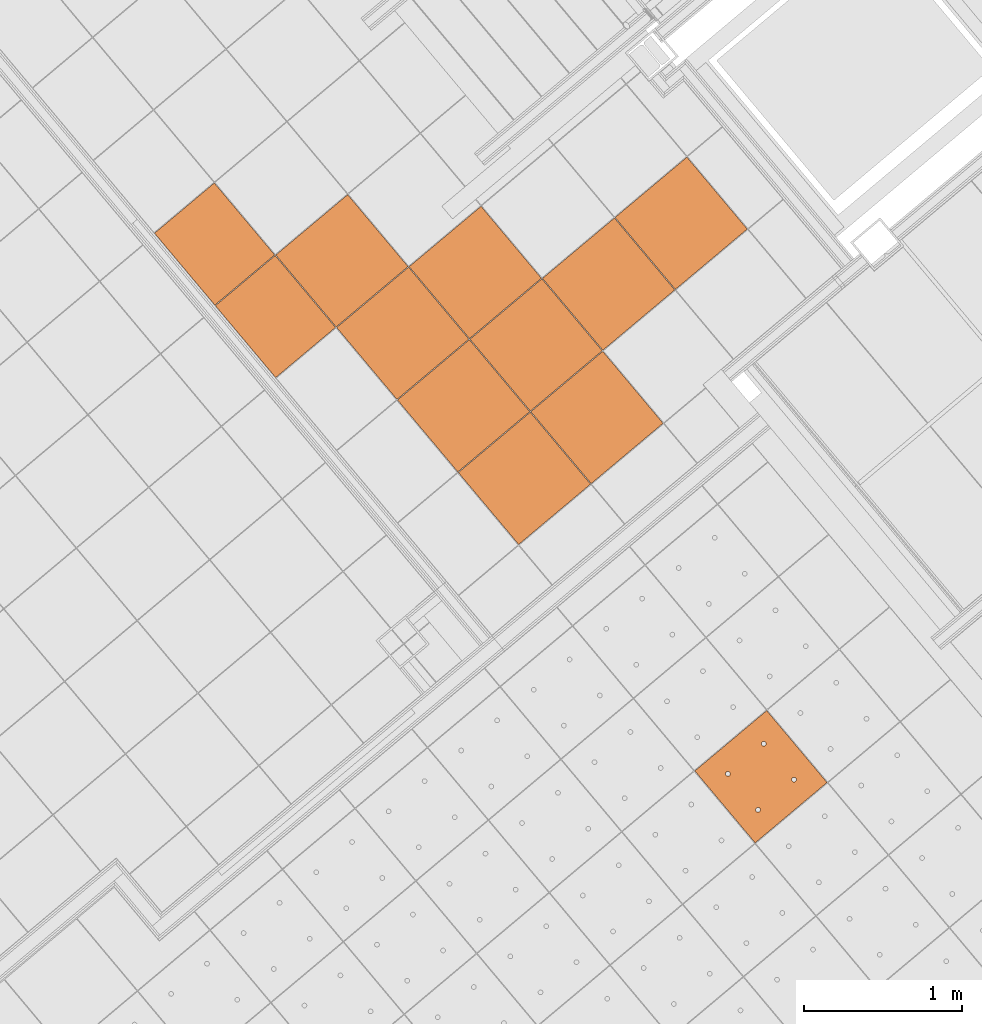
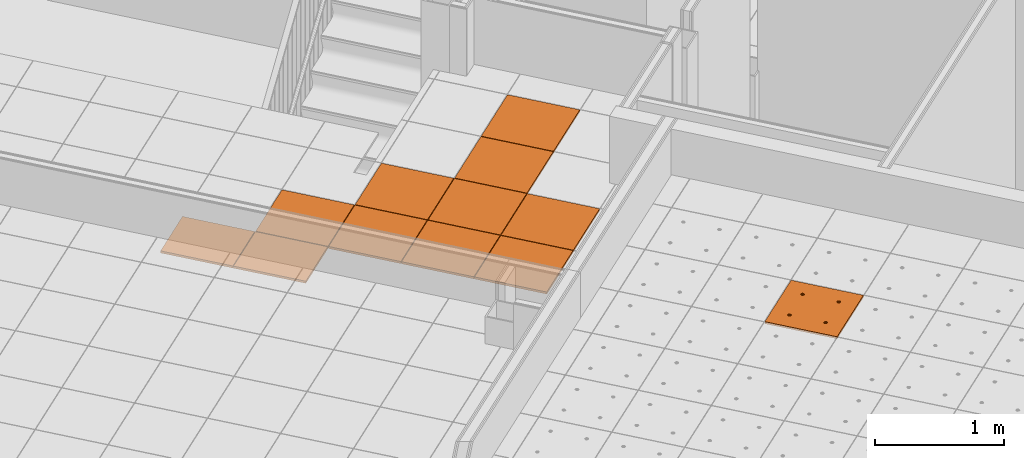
# One storey, part 192 of 338: 12 proxies, 2 elements without a shape of their own.
"""IFC2X3 building model written with IfcOpenShell, lengths in millimetres."""

from ifc_helpers import new_model, entity, si_unit, converted_unit, derived_unit, money_unit, direction, frame, origin_with_axes, place, context, subcontext, project, spatial, faceted_brep, source, transform, mapped, material, type_object, type_shapes, element, aggregate, save


model = new_model("IFC2X3")

# Units and contexts
model_context = context("Model", 3, precision=0.01, world=origin_with_axes(), true_north=direction((0.0, 1.0)))
plan_context = context("Plan", 3, precision=0.01, world=origin_with_axes(), true_north=direction((0.0, 1.0)))
body_context = subcontext(model_context, "Body", "Model", "MODEL_VIEW")
ifc_project = project(units=[si_unit("LENGTHUNIT", "METRE", prefix="MILLI"), si_unit("AREAUNIT", "SQUARE_METRE"), si_unit("VOLUMEUNIT", "CUBIC_METRE"), converted_unit("PLANEANGLEUNIT", "DEGREE", entity("IfcPlaneAngleMeasure", 0.0174532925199), si_unit("PLANEANGLEUNIT", "RADIAN"), dimensions=[0, 0, 0, 0, 0, 0, 0]), money_unit("EUR"), converted_unit("TIMEUNIT", "Year", entity("IfcTimeMeasure", 31556926.0), si_unit("TIMEUNIT", "SECOND"), dimensions=[0, 0, 1, 0, 0, 0, 0]), si_unit("MASSUNIT", "GRAM", prefix="KILO"), si_unit("THERMODYNAMICTEMPERATUREUNIT", "DEGREE_CELSIUS"), si_unit("LUMINOUSINTENSITYUNIT", "LUMEN"), si_unit("ENERGYUNIT", "JOULE", prefix="MEGA"), derived_unit("THERMALCONDUCTANCEUNIT", [(si_unit("POWERUNIT", "WATT"), 1), (si_unit("LENGTHUNIT", "METRE"), -1), (si_unit("THERMODYNAMICTEMPERATUREUNIT", "KELVIN"), -1)]), derived_unit("SPECIFICHEATCAPACITYUNIT", [(si_unit("ENERGYUNIT", "JOULE"), 1), (si_unit("MASSUNIT", "GRAM", prefix="KILO"), -1), (si_unit("THERMODYNAMICTEMPERATUREUNIT", "KELVIN"), -1)]), derived_unit("MASSDENSITYUNIT", [(si_unit("MASSUNIT", "GRAM", prefix="KILO"), 1), (si_unit("VOLUMEUNIT", "CUBIC_METRE"), -1)])], contexts=[model_context, plan_context])

# Site, building, storey
site_placement = place(None, origin_with_axes())
site = spatial("IfcSite", under=ifc_project, at=site_placement, Name="Fortuinstraat Woensdrecht", CompositionType="ELEMENT")
building_placement = place(site_placement, origin_with_axes())
building = spatial("IfcBuilding", under=site, at=building_placement, Name="IKC Fortuna", CompositionType="ELEMENT")
storey_placement = place(building_placement, origin_with_axes())
storey = spatial("IfcBuildingStorey", under=building, at=storey_placement, Name="00 begane grond", CompositionType="ELEMENT", Elevation=0.0)

# Covering, proxy
covering_type = type_object("IfcCoveringType", Name="Curtain Wall Type", PredefinedType="CEILING")
covering_1_placement = place(storey_placement, frame((19785.7448517, -11392.5753808, 4660.0), z_axis=(0.0, 0.0, 1.0), x_axis=(1.0, 0.0, 0.0)))
covering_1 = element("IfcCovering", 1, at=covering_1_placement, inside=storey, type_object=covering_type, Name="45_Plafondafwerking_P01", PredefinedType="CEILING")
ifc_material = material(Name="Gipsplaat")
building_element_proxy_type_1 = type_object("IfcBuildingElementProxyType", Name="Main Panel 600 x 600 x 20", PredefinedType="NOTDEFINED")
shared_shape_1 = source(origin_with_axes(), body_context, "Body", "Brep", [
    faceted_brep([(2.49999999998, 2.49999999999, -10.0), (300.0, 2.49999999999, -10.0), (300.0, 2.49999999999, 10.0), (2.49999999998, 2.49999999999, 10.0), (2.49999999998, 300.0, -10.0), (2.49999999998, 597.5, -10.0), (300.0, 597.5, -10.0), (597.5, 597.5, -10.0), (597.5, 300.0, -10.0), (597.5, 2.49999999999, -10.0), (166.25, 450.06232995, -10.0), (165.79423259, 452.64711538, -10.0), (164.896546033, 455.11348892, -10.0), (163.58421608, 457.38651108, -10.0), (161.897117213, 459.39711721, -10.0), (159.886511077, 461.08421608, -10.0), (157.613488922, 462.39654603, -10.0), (155.147115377, 463.29423259, -10.0), (152.562329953, 463.75, -10.0), (149.937670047, 463.75, -10.0), (147.352884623, 463.29423259, -10.0), (144.886511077, 462.39654603, -10.0), (142.613488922, 461.08421608, -10.0), (140.602882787, 459.39711721, -10.0), (138.91578392, 457.38651108, -10.0), (137.603453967, 455.11348892, -10.0), (136.705767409, 452.64711538, -10.0), (136.25, 450.06232995, -10.0), (136.25, 448.75, -10.0), (136.25, 447.43767005, -10.0), (136.705767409, 444.85288462, -10.0), (137.603453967, 442.38651108, -10.0), (138.91578392, 440.11348892, -10.0), (140.602882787, 438.10288279, -10.0), (142.613488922, 436.41578392, -10.0), (144.886511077, 435.10345397, -10.0), (147.352884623, 434.20576741, -10.0), (149.937670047, 433.75, -10.0), (152.562329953, 433.75, -10.0), (155.147115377, 434.20576741, -10.0), (157.613488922, 435.10345397, -10.0), (159.886511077, 436.41578392, -10.0), (161.897117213, 438.10288279, -10.0), (163.58421608, 440.11348892, -10.0), (164.896546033, 442.38651108, -10.0), (165.79423259, 444.85288462, -10.0), (166.25, 447.43767005, -10.0), (463.75, 450.06232995, -10.0), (463.29423259, 452.64711538, -10.0), (462.396546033, 455.11348892, -10.0), (461.08421608, 457.38651108, -10.0), (459.397117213, 459.39711721, -10.0), (457.386511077, 461.08421608, -10.0), (455.113488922, 462.39654603, -10.0), (452.647115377, 463.29423259, -10.0), (450.062329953, 463.75, -10.0), (447.437670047, 463.75, -10.0), (444.852884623, 463.29423259, -10.0), (442.386511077, 462.39654603, -10.0), (440.113488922, 461.08421608, -10.0), (438.102882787, 459.39711721, -10.0), (436.41578392, 457.38651108, -10.0), (435.103453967, 455.11348892, -10.0), (434.205767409, 452.64711538, -10.0), (433.75, 450.06232995, -10.0), (433.75, 448.75, -10.0), (433.75, 447.43767005, -10.0), (434.205767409, 444.85288462, -10.0), (435.103453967, 442.38651108, -10.0), (436.41578392, 440.11348892, -10.0), (438.102882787, 438.10288279, -10.0), (440.113488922, 436.41578392, -10.0), (442.386511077, 435.10345397, -10.0), (444.852884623, 434.20576741, -10.0), (447.437670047, 433.75, -10.0), (450.062329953, 433.75, -10.0), (452.647115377, 434.20576741, -10.0), (455.113488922, 435.10345397, -10.0), (457.386511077, 436.41578392, -10.0), (459.397117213, 438.10288279, -10.0), (461.08421608, 440.11348892, -10.0), (462.396546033, 442.38651108, -10.0), (463.29423259, 444.85288462, -10.0), (463.75, 447.43767005, -10.0), (463.75, 152.56232995, -10.0), (463.29423259, 155.14711538, -10.0), (462.396546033, 157.61348892, -10.0), (461.08421608, 159.88651108, -10.0), (459.397117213, 161.89711721, -10.0), (457.386511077, 163.58421608, -10.0), (455.113488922, 164.89654603, -10.0), (452.647115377, 165.79423259, -10.0), (450.062329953, 166.25, -10.0), (447.437670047, 166.25, -10.0), (444.852884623, 165.79423259, -10.0), (442.386511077, 164.89654603, -10.0), (440.113488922, 163.58421608, -10.0), (438.102882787, 161.89711721, -10.0), (436.41578392, 159.88651108, -10.0), (435.103453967, 157.61348892, -10.0), (434.205767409, 155.14711538, -10.0), (433.75, 152.56232995, -10.0), (433.75, 151.25, -10.0), (433.75, 149.93767005, -10.0), (434.205767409, 147.35288462, -10.0), (435.103453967, 144.88651108, -10.0), (436.41578392, 142.61348892, -10.0), (438.102882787, 140.60288279, -10.0), (440.113488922, 138.91578392, -10.0), (442.386511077, 137.60345397, -10.0), (444.852884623, 136.70576741, -10.0), (447.437670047, 136.25, -10.0), (450.062329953, 136.25, -10.0), (452.647115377, 136.70576741, -10.0), (455.113488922, 137.60345397, -10.0), (457.386511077, 138.91578392, -10.0), (459.397117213, 140.60288279, -10.0), (461.08421608, 142.61348892, -10.0), (462.396546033, 144.88651108, -10.0), (463.29423259, 147.35288462, -10.0), (463.75, 149.93767005, -10.0), (166.25, 152.56232995, -10.0), (165.79423259, 155.14711538, -10.0), (164.896546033, 157.61348892, -10.0), (163.58421608, 159.88651108, -10.0), (161.897117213, 161.89711721, -10.0), (159.886511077, 163.58421608, -10.0), (157.613488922, 164.89654603, -10.0), (155.147115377, 165.79423259, -10.0), (152.562329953, 166.25, -10.0), (149.937670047, 166.25, -10.0), (147.352884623, 165.79423259, -10.0), (144.886511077, 164.89654603, -10.0), (142.613488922, 163.58421608, -10.0), (140.602882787, 161.89711721, -10.0), (138.91578392, 159.88651108, -10.0), (137.603453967, 157.61348892, -10.0), (136.705767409, 155.14711538, -10.0), (136.25, 152.56232995, -10.0), (136.25, 151.25, -10.0), (136.25, 149.93767005, -10.0), (136.705767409, 147.35288462, -10.0), (137.603453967, 144.88651108, -10.0), (138.91578392, 142.61348892, -10.0), (140.602882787, 140.60288279, -10.0), (142.613488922, 138.91578392, -10.0), (144.886511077, 137.60345397, -10.0), (147.352884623, 136.70576741, -10.0), (149.937670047, 136.25, -10.0), (152.562329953, 136.25, -10.0), (155.147115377, 136.70576741, -10.0), (157.613488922, 137.60345397, -10.0), (159.886511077, 138.91578392, -10.0), (161.897117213, 140.60288279, -10.0), (163.58421608, 142.61348892, -10.0), (164.896546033, 144.88651108, -10.0), (165.79423259, 147.35288462, -10.0), (166.25, 149.93767005, -10.0), (597.5, 2.49999999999, 10.0), (597.5, 300.0, 10.0), (597.5, 597.5, 10.0), (300.0, 597.5, 10.0), (2.49999999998, 597.5, 10.0), (2.49999999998, 300.0, 10.0), (166.25, 450.06232995, 10.0), (166.25, 447.43767005, 10.0), (165.79423259, 444.85288462, 10.0), (164.896546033, 442.38651108, 10.0), (163.58421608, 440.11348892, 10.0), (161.897117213, 438.10288279, 10.0), (159.886511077, 436.41578392, 10.0), (157.613488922, 435.10345397, 10.0), (155.147115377, 434.20576741, 10.0), (152.562329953, 433.75, 10.0), (149.937670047, 433.75, 10.0), (147.352884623, 434.20576741, 10.0), (144.886511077, 435.10345397, 10.0), (142.613488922, 436.41578392, 10.0), (140.602882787, 438.10288279, 10.0), (138.91578392, 440.11348892, 10.0), (137.603453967, 442.38651108, 10.0), (136.705767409, 444.85288462, 10.0), (136.25, 447.43767005, 10.0), (136.25, 448.75, 10.0), (136.25, 450.06232995, 10.0), (136.705767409, 452.64711538, 10.0), (137.603453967, 455.11348892, 10.0), (138.91578392, 457.38651108, 10.0), (140.602882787, 459.39711721, 10.0), (142.613488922, 461.08421608, 10.0), (144.886511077, 462.39654603, 10.0), (147.352884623, 463.29423259, 10.0), (149.937670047, 463.75, 10.0), (152.562329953, 463.75, 10.0), (155.147115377, 463.29423259, 10.0), (157.613488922, 462.39654603, 10.0), (159.886511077, 461.08421608, 10.0), (161.897117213, 459.39711721, 10.0), (163.58421608, 457.38651108, 10.0), (164.896546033, 455.11348892, 10.0), (165.79423259, 452.64711538, 10.0), (463.75, 450.06232995, 10.0), (463.75, 447.43767005, 10.0), (463.29423259, 444.85288462, 10.0), (462.396546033, 442.38651108, 10.0), (461.08421608, 440.11348892, 10.0), (459.397117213, 438.10288279, 10.0), (457.386511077, 436.41578392, 10.0), (455.113488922, 435.10345397, 10.0), (452.647115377, 434.20576741, 10.0), (450.062329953, 433.75, 10.0), (447.437670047, 433.75, 10.0), (444.852884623, 434.20576741, 10.0), (442.386511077, 435.10345397, 10.0), (440.113488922, 436.41578392, 10.0), (438.102882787, 438.10288279, 10.0), (436.41578392, 440.11348892, 10.0), (435.103453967, 442.38651108, 10.0), (434.205767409, 444.85288462, 10.0), (433.75, 447.43767005, 10.0), (433.75, 448.75, 10.0), (433.75, 450.06232995, 10.0), (434.205767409, 452.64711538, 10.0), (435.103453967, 455.11348892, 10.0), (436.41578392, 457.38651108, 10.0), (438.102882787, 459.39711721, 10.0), (440.113488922, 461.08421608, 10.0), (442.386511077, 462.39654603, 10.0), (444.852884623, 463.29423259, 10.0), (447.437670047, 463.75, 10.0), (450.062329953, 463.75, 10.0), (452.647115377, 463.29423259, 10.0), (455.113488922, 462.39654603, 10.0), (457.386511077, 461.08421608, 10.0), (459.397117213, 459.39711721, 10.0), (461.08421608, 457.38651108, 10.0), (462.396546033, 455.11348892, 10.0), (463.29423259, 452.64711538, 10.0), (463.75, 152.56232995, 10.0), (463.75, 149.93767005, 10.0), (463.29423259, 147.35288462, 10.0), (462.396546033, 144.88651108, 10.0), (461.08421608, 142.61348892, 10.0), (459.397117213, 140.60288279, 10.0), (457.386511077, 138.91578392, 10.0), (455.113488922, 137.60345397, 10.0), (452.647115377, 136.70576741, 10.0), (450.062329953, 136.25, 10.0), (447.437670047, 136.25, 10.0), (444.852884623, 136.70576741, 10.0), (442.386511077, 137.60345397, 10.0), (440.113488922, 138.91578392, 10.0), (438.102882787, 140.60288279, 10.0), (436.41578392, 142.61348892, 10.0), (435.103453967, 144.88651108, 10.0), (434.205767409, 147.35288462, 10.0), (433.75, 149.93767005, 10.0), (433.75, 151.25, 10.0), (433.75, 152.56232995, 10.0), (434.205767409, 155.14711538, 10.0), (435.103453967, 157.61348892, 10.0), (436.41578392, 159.88651108, 10.0), (438.102882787, 161.89711721, 10.0), (440.113488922, 163.58421608, 10.0), (442.386511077, 164.89654603, 10.0), (444.852884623, 165.79423259, 10.0), (447.437670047, 166.25, 10.0), (450.062329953, 166.25, 10.0), (452.647115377, 165.79423259, 10.0), (455.113488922, 164.89654603, 10.0), (457.386511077, 163.58421608, 10.0), (459.397117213, 161.89711721, 10.0), (461.08421608, 159.88651108, 10.0), (462.396546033, 157.61348892, 10.0), (463.29423259, 155.14711538, 10.0), (166.25, 152.56232995, 10.0), (166.25, 149.93767005, 10.0), (165.79423259, 147.35288462, 10.0), (164.896546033, 144.88651108, 10.0), (163.58421608, 142.61348892, 10.0), (161.897117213, 140.60288279, 10.0), (159.886511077, 138.91578392, 10.0), (157.613488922, 137.60345397, 10.0), (155.147115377, 136.70576741, 10.0), (152.562329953, 136.25, 10.0), (149.937670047, 136.25, 10.0), (147.352884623, 136.70576741, 10.0), (144.886511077, 137.60345397, 10.0), (142.613488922, 138.91578392, 10.0), (140.602882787, 140.60288279, 10.0), (138.91578392, 142.61348892, 10.0), (137.603453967, 144.88651108, 10.0), (136.705767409, 147.35288462, 10.0), (136.25, 149.93767005, 10.0), (136.25, 151.25, 10.0), (136.25, 152.56232995, 10.0), (136.705767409, 155.14711538, 10.0), (137.603453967, 157.61348892, 10.0), (138.91578392, 159.88651108, 10.0), (140.602882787, 161.89711721, 10.0), (142.613488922, 163.58421608, 10.0), (144.886511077, 164.89654603, 10.0), (147.352884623, 165.79423259, 10.0), (149.937670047, 166.25, 10.0), (152.562329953, 166.25, 10.0), (155.147115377, 165.79423259, 10.0), (157.613488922, 164.89654603, 10.0), (159.886511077, 163.58421608, 10.0), (161.897117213, 161.89711721, 10.0), (163.58421608, 159.88651108, 10.0), (164.896546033, 157.61348892, 10.0), (165.79423259, 155.14711538, 10.0)], [[[0, 1, 2, 3]], [[0, 4, 5, 6, 7, 8, 9, 1], [10, 11, 12, 13, 14, 15, 16, 17, 18, 19, 20, 21, 22, 23, 24, 25, 26, 27, 28, 29, 30, 31, 32, 33, 34, 35, 36, 37, 38, 39, 40, 41, 42, 43, 44, 45, 46], [47, 48, 49, 50, 51, 52, 53, 54, 55, 56, 57, 58, 59, 60, 61, 62, 63, 64, 65, 66, 67, 68, 69, 70, 71, 72, 73, 74, 75, 76, 77, 78, 79, 80, 81, 82, 83], [84, 85, 86, 87, 88, 89, 90, 91, 92, 93, 94, 95, 96, 97, 98, 99, 100, 101, 102, 103, 104, 105, 106, 107, 108, 109, 110, 111, 112, 113, 114, 115, 116, 117, 118, 119, 120], [121, 122, 123, 124, 125, 126, 127, 128, 129, 130, 131, 132, 133, 134, 135, 136, 137, 138, 139, 140, 141, 142, 143, 144, 145, 146, 147, 148, 149, 150, 151, 152, 153, 154, 155, 156, 157]], [[1, 9, 158, 2]], [[3, 2, 158, 159, 160, 161, 162, 163], [164, 165, 166, 167, 168, 169, 170, 171, 172, 173, 174, 175, 176, 177, 178, 179, 180, 181, 182, 183, 184, 185, 186, 187, 188, 189, 190, 191, 192, 193, 194, 195, 196, 197, 198, 199, 200], [201, 202, 203, 204, 205, 206, 207, 208, 209, 210, 211, 212, 213, 214, 215, 216, 217, 218, 219, 220, 221, 222, 223, 224, 225, 226, 227, 228, 229, 230, 231, 232, 233, 234, 235, 236, 237], [238, 239, 240, 241, 242, 243, 244, 245, 246, 247, 248, 249, 250, 251, 252, 253, 254, 255, 256, 257, 258, 259, 260, 261, 262, 263, 264, 265, 266, 267, 268, 269, 270, 271, 272, 273, 274], [275, 276, 277, 278, 279, 280, 281, 282, 283, 284, 285, 286, 287, 288, 289, 290, 291, 292, 293, 294, 295, 296, 297, 298, 299, 300, 301, 302, 303, 304, 305, 306, 307, 308, 309, 310, 311]], [[4, 0, 3, 163]], [[5, 4, 163, 162]], [[6, 5, 162, 161]], [[7, 6, 161, 160]], [[8, 7, 160, 159]], [[9, 8, 159, 158]], [[11, 10, 164, 200]], [[12, 11, 200, 199]], [[13, 12, 199, 198]], [[14, 13, 198, 197]], [[15, 14, 197, 196]], [[16, 15, 196, 195]], [[17, 16, 195, 194]], [[18, 17, 194, 193]], [[19, 18, 193, 192]], [[20, 19, 192, 191]], [[21, 20, 191, 190]], [[22, 21, 190, 189]], [[23, 22, 189, 188]], [[24, 23, 188, 187]], [[25, 24, 187, 186]], [[26, 25, 186, 185]], [[27, 26, 185, 184]], [[28, 27, 184, 183]], [[29, 28, 183, 182]], [[30, 29, 182, 181]], [[31, 30, 181, 180]], [[32, 31, 180, 179]], [[33, 32, 179, 178]], [[34, 33, 178, 177]], [[35, 34, 177, 176]], [[36, 35, 176, 175]], [[37, 36, 175, 174]], [[38, 37, 174, 173]], [[39, 38, 173, 172]], [[40, 39, 172, 171]], [[41, 40, 171, 170]], [[42, 41, 170, 169]], [[43, 42, 169, 168]], [[44, 43, 168, 167]], [[45, 44, 167, 166]], [[46, 45, 166, 165]], [[10, 46, 165, 164]], [[48, 47, 201, 237]], [[49, 48, 237, 236]], [[50, 49, 236, 235]], [[51, 50, 235, 234]], [[52, 51, 234, 233]], [[53, 52, 233, 232]], [[54, 53, 232, 231]], [[55, 54, 231, 230]], [[56, 55, 230, 229]], [[57, 56, 229, 228]], [[58, 57, 228, 227]], [[59, 58, 227, 226]], [[60, 59, 226, 225]], [[61, 60, 225, 224]], [[62, 61, 224, 223]], [[63, 62, 223, 222]], [[64, 63, 222, 221]], [[65, 64, 221, 220]], [[66, 65, 220, 219]], [[67, 66, 219, 218]], [[68, 67, 218, 217]], [[69, 68, 217, 216]], [[70, 69, 216, 215]], [[71, 70, 215, 214]], [[72, 71, 214, 213]], [[73, 72, 213, 212]], [[74, 73, 212, 211]], [[75, 74, 211, 210]], [[76, 75, 210, 209]], [[77, 76, 209, 208]], [[78, 77, 208, 207]], [[79, 78, 207, 206]], [[80, 79, 206, 205]], [[81, 80, 205, 204]], [[82, 81, 204, 203]], [[83, 82, 203, 202]], [[47, 83, 202, 201]], [[85, 84, 238, 274]], [[86, 85, 274, 273]], [[87, 86, 273, 272]], [[88, 87, 272, 271]], [[89, 88, 271, 270]], [[90, 89, 270, 269]], [[91, 90, 269, 268]], [[92, 91, 268, 267]], [[93, 92, 267, 266]], [[94, 93, 266, 265]], [[95, 94, 265, 264]], [[96, 95, 264, 263]], [[97, 96, 263, 262]], [[98, 97, 262, 261]], [[99, 98, 261, 260]], [[100, 99, 260, 259]], [[101, 100, 259, 258]], [[102, 101, 258, 257]], [[103, 102, 257, 256]], [[104, 103, 256, 255]], [[105, 104, 255, 254]], [[106, 105, 254, 253]], [[107, 106, 253, 252]], [[108, 107, 252, 251]], [[109, 108, 251, 250]], [[110, 109, 250, 249]], [[111, 110, 249, 248]], [[112, 111, 248, 247]], [[113, 112, 247, 246]], [[114, 113, 246, 245]], [[115, 114, 245, 244]], [[116, 115, 244, 243]], [[117, 116, 243, 242]], [[118, 117, 242, 241]], [[119, 118, 241, 240]], [[120, 119, 240, 239]], [[84, 120, 239, 238]], [[122, 121, 275, 311]], [[123, 122, 311, 310]], [[124, 123, 310, 309]], [[125, 124, 309, 308]], [[126, 125, 308, 307]], [[127, 126, 307, 306]], [[128, 127, 306, 305]], [[129, 128, 305, 304]], [[130, 129, 304, 303]], [[131, 130, 303, 302]], [[132, 131, 302, 301]], [[133, 132, 301, 300]], [[134, 133, 300, 299]], [[135, 134, 299, 298]], [[136, 135, 298, 297]], [[137, 136, 297, 296]], [[138, 137, 296, 295]], [[139, 138, 295, 294]], [[140, 139, 294, 293]], [[141, 140, 293, 292]], [[142, 141, 292, 291]], [[143, 142, 291, 290]], [[144, 143, 290, 289]], [[145, 144, 289, 288]], [[146, 145, 288, 287]], [[147, 146, 287, 286]], [[148, 147, 286, 285]], [[149, 148, 285, 284]], [[150, 149, 284, 283]], [[151, 150, 283, 282]], [[152, 151, 282, 281]], [[153, 152, 281, 280]], [[154, 153, 280, 279]], [[155, 154, 279, 278]], [[156, 155, 278, 277]], [[157, 156, 277, 276]], [[121, 157, 276, 275]]]),
])
type_shapes(building_element_proxy_type_1, [shared_shape_1])
proxy_1_placement = place(covering_1_placement, frame((1461.06841761, 7451.14688752, 0.0), z_axis=(0.0, 0.0, 1.0), x_axis=(1.0, 0.0, 0.0)))
proxy_1 = element("IfcBuildingElementProxy", 2, at=proxy_1_placement, type_object=building_element_proxy_type_1, material=ifc_material, Name="__600x630 Rockfon Krios", context=body_context, shape_type="MappedRepresentation", body=[
    mapped(shared_shape_1, transform((36.9769427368, 422.649625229, 0.0), x_axis=(-0.766044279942, -0.642787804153, 0.0), y_axis=(0.642787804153, -0.766044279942, 0.0), z_axis=(0.0, 0.0, 1.0))),
])
aggregate(covering_1, [proxy_1])

# Covering, proxies
covering_2_placement = place(storey_placement, frame((19821.8074512, -1204.73183435, 4460.0), z_axis=(0.0, 0.0, 1.0), x_axis=(1.0, 0.0, 0.0)))
covering_2 = element("IfcCovering", 3, at=covering_2_placement, inside=storey, type_object=covering_type, Name="45_Plafondafwerking_P04", PredefinedType="CEILING")
building_element_proxy_type_2 = type_object("IfcBuildingElementProxyType", Name="Distinct Panel 600 x 600 x 20", PredefinedType="NOTDEFINED")
shared_shape_2 = source(origin_with_axes(), body_context, "Body", "Brep", [
    faceted_brep([(-597.499994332, 2.50000201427, -10.0), (-597.499994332, 2.50000201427, 10.0), (-597.499997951, 597.499994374, 10.0), (-597.499997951, 597.499994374, -10.0), (-2.50001005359, 2.49999600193, -10.0), (-2.50001005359, 2.49999600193, 10.0), (-2.49999596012, 597.499989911, 10.0), (-2.49999596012, 597.499989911, -10.0)], [[[0, 1, 2, 3]], [[4, 5, 1, 0]], [[1, 5, 6, 2]], [[3, 2, 6, 7]], [[0, 3, 7, 4]], [[7, 6, 5, 4]]]),
])
proxy_2_placement = place(covering_2_placement, origin_with_axes())
proxy_2 = element("IfcBuildingElementProxy", 4, at=proxy_2_placement, type_object=building_element_proxy_type_2, material=ifc_material, Name="__Panel-D", context=body_context, shape_type="MappedRepresentation", body=[
    mapped(shared_shape_2, transform((-422.649621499, 36.9769853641, 0.0), x_axis=(-0.766044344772, -0.642787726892, 0.0), y_axis=(0.642787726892, -0.766044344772, 0.0), z_axis=(0.0, 0.0, 1.0))),
])
proxy_3_placement = place(covering_2_placement, frame((385.672636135, -459.626606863, 0.0), z_axis=(0.0, 0.0, 1.0), x_axis=(1.0, 0.0, 0.0)))
proxy_3 = element("IfcBuildingElementProxy", 5, at=proxy_3_placement, type_object=building_element_proxy_type_2, material=ifc_material, Name="__Panel-D", context=body_context, shape_type="MappedRepresentation", body=[
    mapped(shared_shape_2, transform((-422.649621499, 36.9769853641, 0.0), x_axis=(-0.766044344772, -0.642787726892, 0.0), y_axis=(0.642787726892, -0.766044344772, 0.0), z_axis=(0.0, 0.0, 1.0))),
])
proxy_4_placement = place(covering_2_placement, frame((-385.672636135, 459.626606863, 0.0), z_axis=(0.0, 0.0, 1.0), x_axis=(1.0, 0.0, 0.0)))
proxy_4 = element("IfcBuildingElementProxy", 6, at=proxy_4_placement, type_object=building_element_proxy_type_2, material=ifc_material, Name="__Panel-D", context=body_context, shape_type="MappedRepresentation", body=[
    mapped(shared_shape_2, transform((-422.649621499, 36.9769853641, 0.0), x_axis=(-0.766044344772, -0.642787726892, 0.0), y_axis=(0.642787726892, -0.766044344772, 0.0), z_axis=(0.0, 0.0, 1.0))),
])
proxy_5_placement = place(covering_2_placement, frame((459.626606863, 385.672636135, 0.0), z_axis=(0.0, 0.0, 1.0), x_axis=(1.0, 0.0, 0.0)))
proxy_5 = element("IfcBuildingElementProxy", 7, at=proxy_5_placement, type_object=building_element_proxy_type_2, material=ifc_material, Name="__Panel-D", context=body_context, shape_type="MappedRepresentation", body=[
    mapped(shared_shape_2, transform((-422.649621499, 36.9769853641, 0.0), x_axis=(-0.766044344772, -0.642787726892, 0.0), y_axis=(0.642787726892, -0.766044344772, 0.0), z_axis=(0.0, 0.0, 1.0))),
])
shared_shape_3 = source(origin_with_axes(), body_context, "Body", "Brep", [
    faceted_brep([(-597.499994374, 2.50000204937, -10.0), (-597.499994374, 2.50000204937, 10.0), (-597.499989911, 597.50000404, 10.0), (-597.499989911, 597.50000404, -10.0), (-2.50000201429, 2.50000566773, -10.0), (-2.50000201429, 2.50000566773, 10.0), (-2.49999600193, 597.499989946, 10.0), (-2.49999600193, 597.499989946, -10.0)], [[[0, 1, 2, 3]], [[4, 5, 1, 0]], [[1, 5, 6, 2]], [[3, 2, 6, 7]], [[0, 3, 7, 4]], [[7, 6, 5, 4]]]),
])
proxy_6_placement = place(covering_2_placement, frame((919.253213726, 771.34527227, 0.0), z_axis=(0.0, 0.0, 1.0), x_axis=(1.0, 0.0, 0.0)))
proxy_6 = element("IfcBuildingElementProxy", 8, at=proxy_6_placement, type_object=building_element_proxy_type_2, material=ifc_material, Name="__Panel-D", context=body_context, shape_type="MappedRepresentation", body=[
    mapped(shared_shape_3, transform((-422.649621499, 36.9769853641, 0.0), x_axis=(-0.766044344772, -0.642787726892, 0.0), y_axis=(0.642787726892, -0.766044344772, 0.0), z_axis=(0.0, 0.0, 1.0))),
])
shared_shape_4 = source(origin_with_axes(), body_context, "Body", "Brep", [
    faceted_brep([(-597.500003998, 2.50001005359, -10.0), (-597.500003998, 2.50001005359, 10.0), (-597.499997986, 597.499994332, 10.0), (-597.499997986, 597.499994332, -10.0), (-2.50001008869, 2.4999959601, -10.0), (-2.50001008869, 2.4999959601, 10.0), (-2.50000562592, 597.499997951, 10.0), (-2.50000562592, 597.499997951, -10.0)], [[[0, 1, 2, 3]], [[4, 5, 1, 0]], [[1, 5, 6, 2]], [[3, 2, 6, 7]], [[0, 3, 7, 4]], [[7, 6, 5, 4]]]),
])
type_shapes(building_element_proxy_type_2, [shared_shape_2, shared_shape_3, shared_shape_4])
proxy_7_placement = place(covering_2_placement, frame((-73.9539707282, -845.299242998, 0.0), z_axis=(0.0, 0.0, 1.0), x_axis=(1.0, 0.0, 0.0)))
proxy_7 = element("IfcBuildingElementProxy", 9, at=proxy_7_placement, type_object=building_element_proxy_type_2, material=ifc_material, Name="__Panel-D", context=body_context, shape_type="MappedRepresentation", body=[
    mapped(shared_shape_4, transform((-422.649621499, 36.9769853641, 0.0), x_axis=(-0.766044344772, -0.642787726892, 0.0), y_axis=(0.642787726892, -0.766044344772, 0.0), z_axis=(0.0, 0.0, 1.0))),
])
proxy_8_placement = place(covering_2_placement, frame((-1230.97187913, 533.580577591, 0.0), z_axis=(0.0, 0.0, 1.0), x_axis=(1.0, 0.0, 0.0)))
proxy_8 = element("IfcBuildingElementProxy", 10, at=proxy_8_placement, type_object=building_element_proxy_type_2, material=ifc_material, Name="__Panel-D", context=body_context, shape_type="MappedRepresentation", body=[
    mapped(shared_shape_4, transform((-422.649621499, 36.9769853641, 0.0), x_axis=(-0.766044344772, -0.642787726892, 0.0), y_axis=(0.642787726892, -0.766044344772, 0.0), z_axis=(0.0, 0.0, 1.0))),
])
proxy_9_placement = place(covering_2_placement, frame((-845.299242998, 73.9539707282, 0.0), z_axis=(0.0, 0.0, 1.0), x_axis=(1.0, 0.0, 0.0)))
proxy_9 = element("IfcBuildingElementProxy", 11, at=proxy_9_placement, type_object=building_element_proxy_type_2, material=ifc_material, Name="__Panel-D", context=body_context, shape_type="MappedRepresentation", body=[
    mapped(shared_shape_4, transform((-422.649621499, 36.9769853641, 0.0), x_axis=(-0.766044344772, -0.642787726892, 0.0), y_axis=(0.642787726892, -0.766044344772, 0.0), z_axis=(0.0, 0.0, 1.0))),
])
proxy_10_placement = place(covering_2_placement, frame((-459.626606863, -385.672636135, 0.0), z_axis=(0.0, 0.0, 1.0), x_axis=(1.0, 0.0, 0.0)))
proxy_10 = element("IfcBuildingElementProxy", 12, at=proxy_10_placement, type_object=building_element_proxy_type_2, material=ifc_material, Name="__Panel-D", context=body_context, shape_type="MappedRepresentation", body=[
    mapped(shared_shape_4, transform((-422.649621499, 36.9769853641, 0.0), x_axis=(-0.766044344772, -0.642787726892, 0.0), y_axis=(0.642787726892, -0.766044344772, 0.0), z_axis=(0.0, 0.0, 1.0))),
])
building_element_proxy_type_3 = type_object("IfcBuildingElementProxyType", Name="Distinct Panel 500 x 600 x 20", PredefinedType="NOTDEFINED")
shared_shape_5 = source(origin_with_axes(), body_context, "Body", "Brep", [
    faceted_brep([(-597.499996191, 2.4999898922, -10.0), (-597.499996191, 2.4999898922, 10.0), (-597.500006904, 597.500000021, 10.0), (-597.500006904, 597.500000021, -10.0), (-102.501953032, 2.49998751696, -10.0), (-102.501953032, 2.49998751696, 10.0), (-102.501963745, 597.499997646, 10.0), (-102.501963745, 597.499997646, -10.0)], [[[0, 1, 2, 3]], [[4, 5, 1, 0]], [[1, 5, 6, 2]], [[3, 2, 6, 7]], [[0, 3, 7, 4]], [[7, 6, 5, 4]]]),
])
type_shapes(building_element_proxy_type_3, [shared_shape_5])
proxy_11_placement = place(covering_2_placement, frame((-2037.96817846, 639.67454421, 0.0), z_axis=(0.0, 0.0, 1.0), x_axis=(1.0, 0.0, 0.0)))
proxy_11 = element("IfcBuildingElementProxy", 13, at=proxy_11_placement, type_object=building_element_proxy_type_3, material=ifc_material, Name="__Panel-D", context=body_context, shape_type="MappedRepresentation", body=[
    mapped(shared_shape_5, transform((-460.952565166, 4.83698947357, 0.0), x_axis=(-0.766044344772, -0.642787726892, 0.0), y_axis=(0.642787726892, -0.766044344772, 0.0), z_axis=(0.0, 0.0, 1.0))),
])
proxy_12_placement = place(covering_2_placement, frame((-1652.29556537, 180.047918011, 0.0), z_axis=(0.0, 0.0, 1.0), x_axis=(1.0, 0.0, 0.0)))
proxy_12 = element("IfcBuildingElementProxy", 14, at=proxy_12_placement, type_object=building_element_proxy_type_3, material=ifc_material, Name="__Panel-D", context=body_context, shape_type="MappedRepresentation", body=[
    mapped(shared_shape_5, transform((-460.952542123, 4.8370088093, 0.0), x_axis=(-0.766044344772, -0.642787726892, 0.0), y_axis=(0.642787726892, -0.766044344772, 0.0), z_axis=(0.0, 0.0, 1.0))),
])
aggregate(covering_2, [proxy_2, proxy_3, proxy_4, proxy_5, proxy_6, proxy_11, proxy_7, proxy_8, proxy_9, proxy_10, proxy_12])

save(model, "model.ifc")
